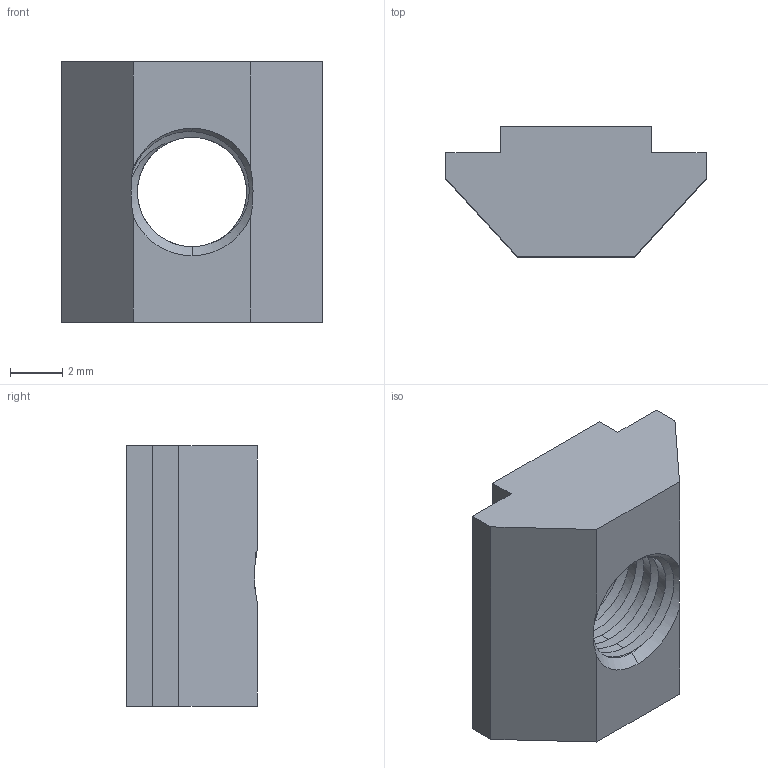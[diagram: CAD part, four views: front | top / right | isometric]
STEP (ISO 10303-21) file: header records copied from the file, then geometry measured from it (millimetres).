
FILE_DESCRIPTION (( 'STEP AP203' ), '1' );
FILE_NAME ('CE-SDN-20.STEP', '2020-07-17T03:28:49', ( '微软用户' ), ( '微软中国' ), 'SwSTEP 2.0', 'SolidWorks 2017', '' );
FILE_SCHEMA (( 'CONFIG_CONTROL_DESIGN' ));
Length unit declared in the file: millimetre
Products named in the file (1): CE-SDN-20
Bounding box: 10 x 5 x 10 mm (x, y, z)
Volume: 298.9 mm3; surface area: 409.6 mm2
Topology: 1 solids, 1 shells, 34 faces, 94 edges, 61 vertices
Faces by surface type: cylinder 13, plane 13, cone 6, bspline 2
Entity records: 2779 total; most frequent: CARTESIAN_POINT 1925, ORIENTED_EDGE 188, DIRECTION 134, EDGE_CURVE 94, VERTEX_POINT 61, LINE 48, VECTOR 48, AXIS2_PLACEMENT_3D 43
